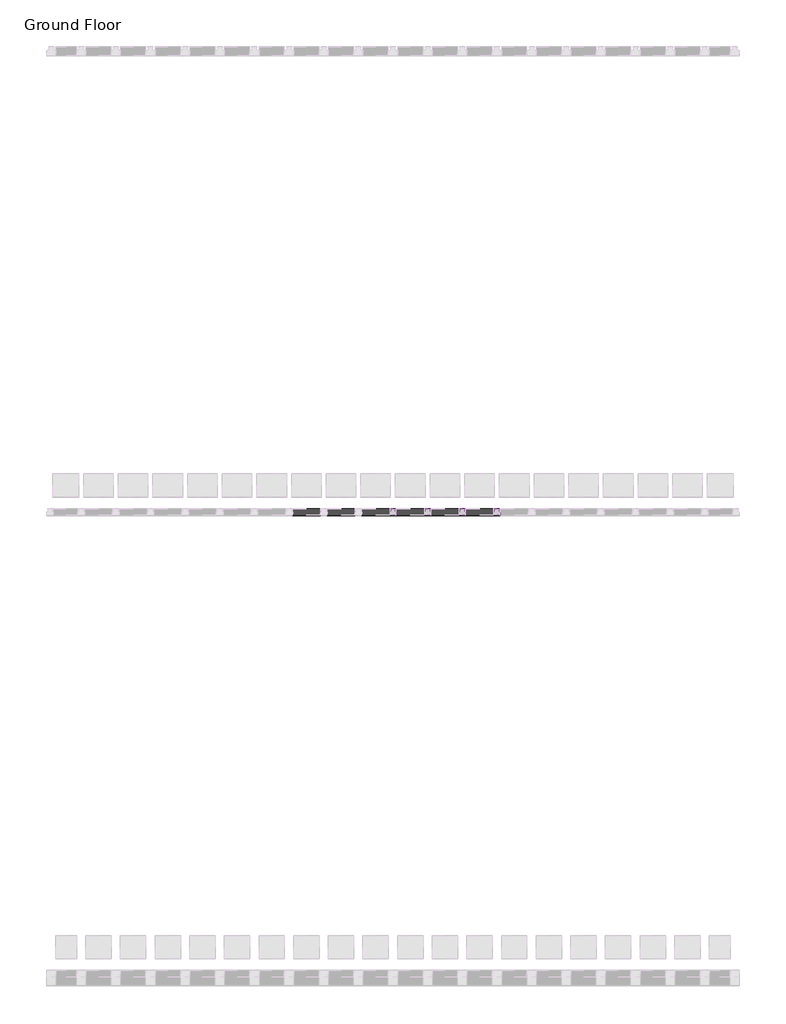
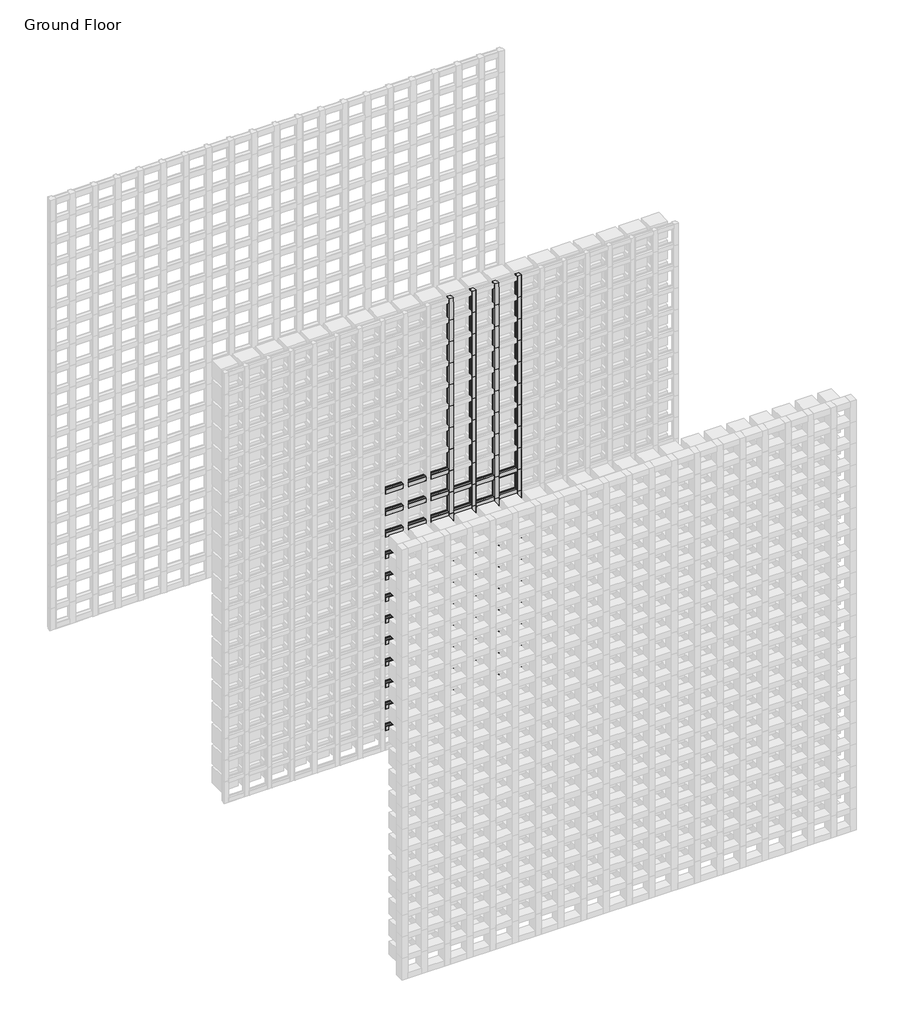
# One storey, part 90 of 350: 145 members.
"""IFC4 building model written with IfcOpenShell, lengths in millimetres."""

from ifc_helpers import new_model, si_unit, origin, place, context, project, spatial, transform, mapped, element, save
from components import rectangular_mullion_f1976eb1, rectangular_mullion_707a50c4

model = new_model("IFC4")

# Units and contexts
model_context = context("Model", 3, world=origin())
ifc_project = project(units=[si_unit("LENGTHUNIT", "METRE", prefix="MILLI")], contexts=[model_context])

# Site, building, storey
site = spatial("IfcSite", under=ifc_project)
building = spatial("IfcBuilding", under=site)
storey = spatial("IfcBuildingStorey", under=building, Name="Ground Floor", Elevation=0.0)

# Members
placement = place(None, origin())
rectangular_mullion_shape = rectangular_mullion_f1976eb1(model_context)
element("IfcMember", 1, ObjectType="Rectangular Mullion : Batten_Timber_Modinex_Austratus_Grid_Fin_30x30_AlaskanYellowCedar", at=placement, inside=storey, context=model_context, shape_type="MappedRepresentation", body=[
    mapped(rectangular_mullion_shape, transform((3416.4361642, 42968.2978302, 150.0), x_axis=(1.0, 0.0, 0.0), y_axis=(0.0, -1.0, 0.0), z_axis=(0.0, 0.0, -1.0))),
])
element("IfcMember", 2, ObjectType="Rectangular Mullion : Batten_Timber_Modinex_Austratus_Grid_Fin_30x30_AlaskanYellowCedar", at=placement, inside=storey, context=model_context, shape_type="MappedRepresentation", body=[
    mapped(rectangular_mullion_shape, transform((3416.4361642, 42968.2978302, 300.0), x_axis=(1.0, 0.0, 0.0), y_axis=(0.0, -1.0, 0.0), z_axis=(0.0, 0.0, -1.0))),
])
element("IfcMember", 3, ObjectType="Rectangular Mullion : Batten_Timber_Modinex_Austratus_Grid_Fin_30x30_AlaskanYellowCedar", at=placement, inside=storey, context=model_context, shape_type="MappedRepresentation", body=[
    mapped(rectangular_mullion_shape, transform((3416.4361642, 42968.2978302, 450.0), x_axis=(1.0, 0.0, 0.0), y_axis=(0.0, -1.0, 0.0), z_axis=(0.0, 0.0, -1.0))),
])
element("IfcMember", 4, ObjectType="Rectangular Mullion : Batten_Timber_Modinex_Austratus_Grid_Fin_30x30_AlaskanYellowCedar", at=placement, inside=storey, context=model_context, shape_type="MappedRepresentation", body=[
    mapped(rectangular_mullion_shape, transform((3416.4361642, 42968.2978302, 600.0), x_axis=(1.0, 0.0, 0.0), y_axis=(0.0, -1.0, 0.0), z_axis=(0.0, 0.0, -1.0))),
])
element("IfcMember", 5, ObjectType="Rectangular Mullion : Batten_Timber_Modinex_Austratus_Grid_Fin_30x30_AlaskanYellowCedar", at=placement, inside=storey, context=model_context, shape_type="MappedRepresentation", body=[
    mapped(rectangular_mullion_shape, transform((3416.4361642, 42968.2978302, 750.0), x_axis=(1.0, 0.0, 0.0), y_axis=(0.0, -1.0, 0.0), z_axis=(0.0, 0.0, -1.0))),
])
element("IfcMember", 6, ObjectType="Rectangular Mullion : Batten_Timber_Modinex_Austratus_Grid_Fin_30x30_AlaskanYellowCedar", at=placement, inside=storey, context=model_context, shape_type="MappedRepresentation", body=[
    mapped(rectangular_mullion_shape, transform((3416.4361642, 42968.2978302, 900.0), x_axis=(1.0, 0.0, 0.0), y_axis=(0.0, -1.0, 0.0), z_axis=(0.0, 0.0, -1.0))),
])
element("IfcMember", 7, ObjectType="Rectangular Mullion : Batten_Timber_Modinex_Austratus_Grid_Fin_30x30_AlaskanYellowCedar", at=placement, inside=storey, context=model_context, shape_type="MappedRepresentation", body=[
    mapped(rectangular_mullion_shape, transform((3416.4361642, 42968.2978302, 1050.0), x_axis=(1.0, 0.0, 0.0), y_axis=(0.0, -1.0, 0.0), z_axis=(0.0, 0.0, -1.0))),
])
element("IfcMember", 8, ObjectType="Rectangular Mullion : Batten_Timber_Modinex_Austratus_Grid_Fin_30x30_AlaskanYellowCedar", at=placement, inside=storey, context=model_context, shape_type="MappedRepresentation", body=[
    mapped(rectangular_mullion_shape, transform((3416.4361642, 42968.2978302, 1200.0), x_axis=(1.0, 0.0, 0.0), y_axis=(0.0, -1.0, 0.0), z_axis=(0.0, 0.0, -1.0))),
])
element("IfcMember", 9, ObjectType="Rectangular Mullion : Batten_Timber_Modinex_Austratus_Grid_Fin_30x30_AlaskanYellowCedar", at=placement, inside=storey, context=model_context, shape_type="MappedRepresentation", body=[
    mapped(rectangular_mullion_shape, transform((3416.4361642, 42968.2978302, 1350.0), x_axis=(1.0, 0.0, 0.0), y_axis=(0.0, -1.0, 0.0), z_axis=(0.0, 0.0, -1.0))),
])
element("IfcMember", 10, ObjectType="Rectangular Mullion : Batten_Timber_Modinex_Austratus_Grid_Fin_30x30_AlaskanYellowCedar", at=placement, inside=storey, context=model_context, shape_type="MappedRepresentation", body=[
    mapped(rectangular_mullion_shape, transform((3416.4361642, 42968.2978302, 1500.0), x_axis=(1.0, 0.0, 0.0), y_axis=(0.0, -1.0, 0.0), z_axis=(0.0, 0.0, -1.0))),
])
element("IfcMember", 11, ObjectType="Rectangular Mullion : Batten_Timber_Modinex_Austratus_Grid_Fin_30x30_AlaskanYellowCedar", at=placement, inside=storey, context=model_context, shape_type="MappedRepresentation", body=[
    mapped(rectangular_mullion_shape, transform((3416.4361642, 42968.2978302, 1650.0), x_axis=(1.0, 0.0, 0.0), y_axis=(0.0, -1.0, 0.0), z_axis=(0.0, 0.0, -1.0))),
])
element("IfcMember", 12, ObjectType="Rectangular Mullion : Batten_Timber_Modinex_Austratus_Grid_Fin_30x30_AlaskanYellowCedar", at=placement, inside=storey, context=model_context, shape_type="MappedRepresentation", body=[
    mapped(rectangular_mullion_shape, transform((3416.4361642, 42968.2978302, 1800.0), x_axis=(1.0, 0.0, 0.0), y_axis=(0.0, -1.0, 0.0), z_axis=(0.0, 0.0, -1.0))),
])
element("IfcMember", 13, ObjectType="Rectangular Mullion : Batten_Timber_Modinex_Austratus_Grid_Fin_30x30_AlaskanYellowCedar", at=placement, inside=storey, context=model_context, shape_type="MappedRepresentation", body=[
    mapped(rectangular_mullion_shape, transform((3416.4361642, 42968.2978302, 1950.0), x_axis=(1.0, 0.0, 0.0), y_axis=(0.0, -1.0, 0.0), z_axis=(0.0, 0.0, -1.0))),
])
element("IfcMember", 14, ObjectType="Rectangular Mullion : Batten_Timber_Modinex_Austratus_Grid_Fin_30x30_AlaskanYellowCedar", at=placement, inside=storey, context=model_context, shape_type="MappedRepresentation", body=[
    mapped(rectangular_mullion_shape, transform((3416.4361642, 42968.2978302, 2100.0), x_axis=(1.0, 0.0, 0.0), y_axis=(0.0, -1.0, 0.0), z_axis=(0.0, 0.0, -1.0))),
])
element("IfcMember", 15, ObjectType="Rectangular Mullion : Batten_Timber_Modinex_Austratus_Grid_Fin_30x30_AlaskanYellowCedar", at=placement, inside=storey, context=model_context, shape_type="MappedRepresentation", body=[
    mapped(rectangular_mullion_shape, transform((3416.4361642, 42968.2978302, 2250.0), x_axis=(1.0, 0.0, 0.0), y_axis=(0.0, -1.0, 0.0), z_axis=(0.0, 0.0, -1.0))),
])
element("IfcMember", 16, ObjectType="Rectangular Mullion : Batten_Timber_Modinex_Austratus_Grid_Fin_30x30_AlaskanYellowCedar", at=placement, inside=storey, context=model_context, shape_type="MappedRepresentation", body=[
    mapped(rectangular_mullion_shape, transform((3416.4361642, 42968.2978302, 2400.0), x_axis=(1.0, 0.0, 0.0), y_axis=(0.0, -1.0, 0.0), z_axis=(0.0, 0.0, -1.0))),
])
element("IfcMember", 17, ObjectType="Rectangular Mullion : Batten_Timber_Modinex_Austratus_Grid_Fin_30x30_AlaskanYellowCedar", at=placement, inside=storey, context=model_context, shape_type="MappedRepresentation", body=[
    mapped(rectangular_mullion_shape, transform((3416.4361642, 42968.2978302, 2550.0), x_axis=(1.0, 0.0, 0.0), y_axis=(0.0, -1.0, 0.0), z_axis=(0.0, 0.0, -1.0))),
])
element("IfcMember", 18, ObjectType="Rectangular Mullion : Batten_Timber_Modinex_Austratus_Grid_Fin_30x30_AlaskanYellowCedar", at=placement, inside=storey, context=model_context, shape_type="MappedRepresentation", body=[
    mapped(rectangular_mullion_shape, transform((3416.4361642, 42968.2978302, 2700.0), x_axis=(1.0, 0.0, 0.0), y_axis=(0.0, -1.0, 0.0), z_axis=(0.0, 0.0, -1.0))),
])
element("IfcMember", 19, ObjectType="Rectangular Mullion : Batten_Timber_Modinex_Austratus_Grid_Fin_30x30_AlaskanYellowCedar", at=placement, inside=storey, context=model_context, shape_type="MappedRepresentation", body=[
    mapped(rectangular_mullion_shape, transform((3566.4361642, 42968.2978302, 150.0), x_axis=(1.0, 0.0, 0.0), y_axis=(0.0, -1.0, 0.0), z_axis=(0.0, 0.0, -1.0))),
])
element("IfcMember", 20, ObjectType="Rectangular Mullion : Batten_Timber_Modinex_Austratus_Grid_Fin_30x30_AlaskanYellowCedar", at=placement, inside=storey, context=model_context, shape_type="MappedRepresentation", body=[
    mapped(rectangular_mullion_shape, transform((3566.4361642, 42968.2978302, 300.0), x_axis=(1.0, 0.0, 0.0), y_axis=(0.0, -1.0, 0.0), z_axis=(0.0, 0.0, -1.0))),
])
element("IfcMember", 21, ObjectType="Rectangular Mullion : Batten_Timber_Modinex_Austratus_Grid_Fin_30x30_AlaskanYellowCedar", at=placement, inside=storey, context=model_context, shape_type="MappedRepresentation", body=[
    mapped(rectangular_mullion_shape, transform((3566.4361642, 42968.2978302, 450.0), x_axis=(1.0, 0.0, 0.0), y_axis=(0.0, -1.0, 0.0), z_axis=(0.0, 0.0, -1.0))),
])
element("IfcMember", 22, ObjectType="Rectangular Mullion : Batten_Timber_Modinex_Austratus_Grid_Fin_30x30_AlaskanYellowCedar", at=placement, inside=storey, context=model_context, shape_type="MappedRepresentation", body=[
    mapped(rectangular_mullion_shape, transform((3566.4361642, 42968.2978302, 600.0), x_axis=(1.0, 0.0, 0.0), y_axis=(0.0, -1.0, 0.0), z_axis=(0.0, 0.0, -1.0))),
])
element("IfcMember", 23, ObjectType="Rectangular Mullion : Batten_Timber_Modinex_Austratus_Grid_Fin_30x30_AlaskanYellowCedar", at=placement, inside=storey, context=model_context, shape_type="MappedRepresentation", body=[
    mapped(rectangular_mullion_shape, transform((3566.4361642, 42968.2978302, 750.0), x_axis=(1.0, 0.0, 0.0), y_axis=(0.0, -1.0, 0.0), z_axis=(0.0, 0.0, -1.0))),
])
element("IfcMember", 24, ObjectType="Rectangular Mullion : Batten_Timber_Modinex_Austratus_Grid_Fin_30x30_AlaskanYellowCedar", at=placement, inside=storey, context=model_context, shape_type="MappedRepresentation", body=[
    mapped(rectangular_mullion_shape, transform((3566.4361642, 42968.2978302, 900.0), x_axis=(1.0, 0.0, 0.0), y_axis=(0.0, -1.0, 0.0), z_axis=(0.0, 0.0, -1.0))),
])
element("IfcMember", 25, ObjectType="Rectangular Mullion : Batten_Timber_Modinex_Austratus_Grid_Fin_30x30_AlaskanYellowCedar", at=placement, inside=storey, context=model_context, shape_type="MappedRepresentation", body=[
    mapped(rectangular_mullion_shape, transform((3566.4361642, 42968.2978302, 1050.0), x_axis=(1.0, 0.0, 0.0), y_axis=(0.0, -1.0, 0.0), z_axis=(0.0, 0.0, -1.0))),
])
element("IfcMember", 26, ObjectType="Rectangular Mullion : Batten_Timber_Modinex_Austratus_Grid_Fin_30x30_AlaskanYellowCedar", at=placement, inside=storey, context=model_context, shape_type="MappedRepresentation", body=[
    mapped(rectangular_mullion_shape, transform((3566.4361642, 42968.2978302, 1200.0), x_axis=(1.0, 0.0, 0.0), y_axis=(0.0, -1.0, 0.0), z_axis=(0.0, 0.0, -1.0))),
])
element("IfcMember", 27, ObjectType="Rectangular Mullion : Batten_Timber_Modinex_Austratus_Grid_Fin_30x30_AlaskanYellowCedar", at=placement, inside=storey, context=model_context, shape_type="MappedRepresentation", body=[
    mapped(rectangular_mullion_shape, transform((3566.4361642, 42968.2978302, 1350.0), x_axis=(1.0, 0.0, 0.0), y_axis=(0.0, -1.0, 0.0), z_axis=(0.0, 0.0, -1.0))),
])
element("IfcMember", 28, ObjectType="Rectangular Mullion : Batten_Timber_Modinex_Austratus_Grid_Fin_30x30_AlaskanYellowCedar", at=placement, inside=storey, context=model_context, shape_type="MappedRepresentation", body=[
    mapped(rectangular_mullion_shape, transform((3566.4361642, 42968.2978302, 1500.0), x_axis=(1.0, 0.0, 0.0), y_axis=(0.0, -1.0, 0.0), z_axis=(0.0, 0.0, -1.0))),
])
element("IfcMember", 29, ObjectType="Rectangular Mullion : Batten_Timber_Modinex_Austratus_Grid_Fin_30x30_AlaskanYellowCedar", at=placement, inside=storey, context=model_context, shape_type="MappedRepresentation", body=[
    mapped(rectangular_mullion_shape, transform((3566.4361642, 42968.2978302, 1650.0), x_axis=(1.0, 0.0, 0.0), y_axis=(0.0, -1.0, 0.0), z_axis=(0.0, 0.0, -1.0))),
])
element("IfcMember", 30, ObjectType="Rectangular Mullion : Batten_Timber_Modinex_Austratus_Grid_Fin_30x30_AlaskanYellowCedar", at=placement, inside=storey, context=model_context, shape_type="MappedRepresentation", body=[
    mapped(rectangular_mullion_shape, transform((3566.4361642, 42968.2978302, 1800.0), x_axis=(1.0, 0.0, 0.0), y_axis=(0.0, -1.0, 0.0), z_axis=(0.0, 0.0, -1.0))),
])
element("IfcMember", 31, ObjectType="Rectangular Mullion : Batten_Timber_Modinex_Austratus_Grid_Fin_30x30_AlaskanYellowCedar", at=placement, inside=storey, context=model_context, shape_type="MappedRepresentation", body=[
    mapped(rectangular_mullion_shape, transform((3566.4361642, 42968.2978302, 1950.0), x_axis=(1.0, 0.0, 0.0), y_axis=(0.0, -1.0, 0.0), z_axis=(0.0, 0.0, -1.0))),
])
element("IfcMember", 32, ObjectType="Rectangular Mullion : Batten_Timber_Modinex_Austratus_Grid_Fin_30x30_AlaskanYellowCedar", at=placement, inside=storey, context=model_context, shape_type="MappedRepresentation", body=[
    mapped(rectangular_mullion_shape, transform((3566.4361642, 42968.2978302, 2100.0), x_axis=(1.0, 0.0, 0.0), y_axis=(0.0, -1.0, 0.0), z_axis=(0.0, 0.0, -1.0))),
])
element("IfcMember", 33, ObjectType="Rectangular Mullion : Batten_Timber_Modinex_Austratus_Grid_Fin_30x30_AlaskanYellowCedar", at=placement, inside=storey, context=model_context, shape_type="MappedRepresentation", body=[
    mapped(rectangular_mullion_shape, transform((3566.4361642, 42968.2978302, 2250.0), x_axis=(1.0, 0.0, 0.0), y_axis=(0.0, -1.0, 0.0), z_axis=(0.0, 0.0, -1.0))),
])
element("IfcMember", 34, ObjectType="Rectangular Mullion : Batten_Timber_Modinex_Austratus_Grid_Fin_30x30_AlaskanYellowCedar", at=placement, inside=storey, context=model_context, shape_type="MappedRepresentation", body=[
    mapped(rectangular_mullion_shape, transform((3566.4361642, 42968.2978302, 2400.0), x_axis=(1.0, 0.0, 0.0), y_axis=(0.0, -1.0, 0.0), z_axis=(0.0, 0.0, -1.0))),
])
element("IfcMember", 35, ObjectType="Rectangular Mullion : Batten_Timber_Modinex_Austratus_Grid_Fin_30x30_AlaskanYellowCedar", at=placement, inside=storey, context=model_context, shape_type="MappedRepresentation", body=[
    mapped(rectangular_mullion_shape, transform((3566.4361642, 42968.2978302, 2550.0), x_axis=(1.0, 0.0, 0.0), y_axis=(0.0, -1.0, 0.0), z_axis=(0.0, 0.0, -1.0))),
])
element("IfcMember", 36, ObjectType="Rectangular Mullion : Batten_Timber_Modinex_Austratus_Grid_Fin_30x30_AlaskanYellowCedar", at=placement, inside=storey, context=model_context, shape_type="MappedRepresentation", body=[
    mapped(rectangular_mullion_shape, transform((3566.4361642, 42968.2978302, 2700.0), x_axis=(1.0, 0.0, 0.0), y_axis=(0.0, -1.0, 0.0), z_axis=(0.0, 0.0, -1.0))),
])
element("IfcMember", 37, ObjectType="Rectangular Mullion : Batten_Timber_Modinex_Austratus_Grid_Fin_30x30_AlaskanYellowCedar", at=placement, inside=storey, context=model_context, shape_type="MappedRepresentation", body=[
    mapped(rectangular_mullion_shape, transform((3716.4361642, 42968.2978302, 150.0), x_axis=(1.0, 0.0, 0.0), y_axis=(0.0, -1.0, 0.0), z_axis=(0.0, 0.0, -1.0))),
])
element("IfcMember", 38, ObjectType="Rectangular Mullion : Batten_Timber_Modinex_Austratus_Grid_Fin_30x30_AlaskanYellowCedar", at=placement, inside=storey, context=model_context, shape_type="MappedRepresentation", body=[
    mapped(rectangular_mullion_shape, transform((3716.4361642, 42968.2978302, 300.0), x_axis=(1.0, 0.0, 0.0), y_axis=(0.0, -1.0, 0.0), z_axis=(0.0, 0.0, -1.0))),
])
element("IfcMember", 39, ObjectType="Rectangular Mullion : Batten_Timber_Modinex_Austratus_Grid_Fin_30x30_AlaskanYellowCedar", at=placement, inside=storey, context=model_context, shape_type="MappedRepresentation", body=[
    mapped(rectangular_mullion_shape, transform((3716.4361642, 42968.2978302, 450.0), x_axis=(1.0, 0.0, 0.0), y_axis=(0.0, -1.0, 0.0), z_axis=(0.0, 0.0, -1.0))),
])
element("IfcMember", 40, ObjectType="Rectangular Mullion : Batten_Timber_Modinex_Austratus_Grid_Fin_30x30_AlaskanYellowCedar", at=placement, inside=storey, context=model_context, shape_type="MappedRepresentation", body=[
    mapped(rectangular_mullion_shape, transform((3716.4361642, 42968.2978302, 600.0), x_axis=(1.0, 0.0, 0.0), y_axis=(0.0, -1.0, 0.0), z_axis=(0.0, 0.0, -1.0))),
])
element("IfcMember", 41, ObjectType="Rectangular Mullion : Batten_Timber_Modinex_Austratus_Grid_Fin_30x30_AlaskanYellowCedar", at=placement, inside=storey, context=model_context, shape_type="MappedRepresentation", body=[
    mapped(rectangular_mullion_shape, transform((3716.4361642, 42968.2978302, 750.0), x_axis=(1.0, 0.0, 0.0), y_axis=(0.0, -1.0, 0.0), z_axis=(0.0, 0.0, -1.0))),
])
element("IfcMember", 42, ObjectType="Rectangular Mullion : Batten_Timber_Modinex_Austratus_Grid_Fin_30x30_AlaskanYellowCedar", at=placement, inside=storey, context=model_context, shape_type="MappedRepresentation", body=[
    mapped(rectangular_mullion_shape, transform((3716.4361642, 42968.2978302, 900.0), x_axis=(1.0, 0.0, 0.0), y_axis=(0.0, -1.0, 0.0), z_axis=(0.0, 0.0, -1.0))),
])
element("IfcMember", 43, ObjectType="Rectangular Mullion : Batten_Timber_Modinex_Austratus_Grid_Fin_30x30_AlaskanYellowCedar", at=placement, inside=storey, context=model_context, shape_type="MappedRepresentation", body=[
    mapped(rectangular_mullion_shape, transform((3716.4361642, 42968.2978302, 1050.0), x_axis=(1.0, 0.0, 0.0), y_axis=(0.0, -1.0, 0.0), z_axis=(0.0, 0.0, -1.0))),
])
element("IfcMember", 44, ObjectType="Rectangular Mullion : Batten_Timber_Modinex_Austratus_Grid_Fin_30x30_AlaskanYellowCedar", at=placement, inside=storey, context=model_context, shape_type="MappedRepresentation", body=[
    mapped(rectangular_mullion_shape, transform((3716.4361642, 42968.2978302, 1200.0), x_axis=(1.0, 0.0, 0.0), y_axis=(0.0, -1.0, 0.0), z_axis=(0.0, 0.0, -1.0))),
])
element("IfcMember", 45, ObjectType="Rectangular Mullion : Batten_Timber_Modinex_Austratus_Grid_Fin_30x30_AlaskanYellowCedar", at=placement, inside=storey, context=model_context, shape_type="MappedRepresentation", body=[
    mapped(rectangular_mullion_shape, transform((3716.4361642, 42968.2978302, 1350.0), x_axis=(1.0, 0.0, 0.0), y_axis=(0.0, -1.0, 0.0), z_axis=(0.0, 0.0, -1.0))),
])
element("IfcMember", 46, ObjectType="Rectangular Mullion : Batten_Timber_Modinex_Austratus_Grid_Fin_30x30_AlaskanYellowCedar", at=placement, inside=storey, context=model_context, shape_type="MappedRepresentation", body=[
    mapped(rectangular_mullion_shape, transform((3716.4361642, 42968.2978302, 1500.0), x_axis=(1.0, 0.0, 0.0), y_axis=(0.0, -1.0, 0.0), z_axis=(0.0, 0.0, -1.0))),
])
element("IfcMember", 47, ObjectType="Rectangular Mullion : Batten_Timber_Modinex_Austratus_Grid_Fin_30x30_AlaskanYellowCedar", at=placement, inside=storey, context=model_context, shape_type="MappedRepresentation", body=[
    mapped(rectangular_mullion_shape, transform((3716.4361642, 42968.2978302, 1650.0), x_axis=(1.0, 0.0, 0.0), y_axis=(0.0, -1.0, 0.0), z_axis=(0.0, 0.0, -1.0))),
])
element("IfcMember", 48, ObjectType="Rectangular Mullion : Batten_Timber_Modinex_Austratus_Grid_Fin_30x30_AlaskanYellowCedar", at=placement, inside=storey, context=model_context, shape_type="MappedRepresentation", body=[
    mapped(rectangular_mullion_shape, transform((3716.4361642, 42968.2978302, 1800.0), x_axis=(1.0, 0.0, 0.0), y_axis=(0.0, -1.0, 0.0), z_axis=(0.0, 0.0, -1.0))),
])
element("IfcMember", 49, ObjectType="Rectangular Mullion : Batten_Timber_Modinex_Austratus_Grid_Fin_30x30_AlaskanYellowCedar", at=placement, inside=storey, context=model_context, shape_type="MappedRepresentation", body=[
    mapped(rectangular_mullion_shape, transform((3716.4361642, 42968.2978302, 1950.0), x_axis=(1.0, 0.0, 0.0), y_axis=(0.0, -1.0, 0.0), z_axis=(0.0, 0.0, -1.0))),
])
element("IfcMember", 50, ObjectType="Rectangular Mullion : Batten_Timber_Modinex_Austratus_Grid_Fin_30x30_AlaskanYellowCedar", at=placement, inside=storey, context=model_context, shape_type="MappedRepresentation", body=[
    mapped(rectangular_mullion_shape, transform((3716.4361642, 42968.2978302, 2100.0), x_axis=(1.0, 0.0, 0.0), y_axis=(0.0, -1.0, 0.0), z_axis=(0.0, 0.0, -1.0))),
])
element("IfcMember", 51, ObjectType="Rectangular Mullion : Batten_Timber_Modinex_Austratus_Grid_Fin_30x30_AlaskanYellowCedar", at=placement, inside=storey, context=model_context, shape_type="MappedRepresentation", body=[
    mapped(rectangular_mullion_shape, transform((3716.4361642, 42968.2978302, 2250.0), x_axis=(1.0, 0.0, 0.0), y_axis=(0.0, -1.0, 0.0), z_axis=(0.0, 0.0, -1.0))),
])
element("IfcMember", 52, ObjectType="Rectangular Mullion : Batten_Timber_Modinex_Austratus_Grid_Fin_30x30_AlaskanYellowCedar", at=placement, inside=storey, context=model_context, shape_type="MappedRepresentation", body=[
    mapped(rectangular_mullion_shape, transform((3716.4361642, 42968.2978302, 2400.0), x_axis=(1.0, 0.0, 0.0), y_axis=(0.0, -1.0, 0.0), z_axis=(0.0, 0.0, -1.0))),
])
element("IfcMember", 53, ObjectType="Rectangular Mullion : Batten_Timber_Modinex_Austratus_Grid_Fin_30x30_AlaskanYellowCedar", at=placement, inside=storey, context=model_context, shape_type="MappedRepresentation", body=[
    mapped(rectangular_mullion_shape, transform((3716.4361642, 42968.2978302, 2550.0), x_axis=(1.0, 0.0, 0.0), y_axis=(0.0, -1.0, 0.0), z_axis=(0.0, 0.0, -1.0))),
])
element("IfcMember", 54, ObjectType="Rectangular Mullion : Batten_Timber_Modinex_Austratus_Grid_Fin_30x30_AlaskanYellowCedar", at=placement, inside=storey, context=model_context, shape_type="MappedRepresentation", body=[
    mapped(rectangular_mullion_shape, transform((3716.4361642, 42968.2978302, 2700.0), x_axis=(1.0, 0.0, 0.0), y_axis=(0.0, -1.0, 0.0), z_axis=(0.0, 0.0, -1.0))),
])
element("IfcMember", 55, ObjectType="Rectangular Mullion : Batten_Timber_Modinex_Austratus_Grid_Fin_30x30_AlaskanYellowCedar", at=placement, inside=storey, context=model_context, shape_type="MappedRepresentation", body=[
    mapped(rectangular_mullion_shape, transform((3866.4361642, 42968.2978302, 150.0), x_axis=(1.0, 0.0, 0.0), y_axis=(0.0, -1.0, 0.0), z_axis=(0.0, 0.0, -1.0))),
])
element("IfcMember", 56, ObjectType="Rectangular Mullion : Batten_Timber_Modinex_Austratus_Grid_Fin_30x30_AlaskanYellowCedar", at=placement, inside=storey, context=model_context, shape_type="MappedRepresentation", body=[
    mapped(rectangular_mullion_shape, transform((3866.4361642, 42968.2978302, 300.0), x_axis=(1.0, 0.0, 0.0), y_axis=(0.0, -1.0, 0.0), z_axis=(0.0, 0.0, -1.0))),
])
element("IfcMember", 57, ObjectType="Rectangular Mullion : Batten_Timber_Modinex_Austratus_Grid_Fin_30x30_AlaskanYellowCedar", at=placement, inside=storey, context=model_context, shape_type="MappedRepresentation", body=[
    mapped(rectangular_mullion_shape, transform((3866.4361642, 42968.2978302, 450.0), x_axis=(1.0, 0.0, 0.0), y_axis=(0.0, -1.0, 0.0), z_axis=(0.0, 0.0, -1.0))),
])
element("IfcMember", 58, ObjectType="Rectangular Mullion : Batten_Timber_Modinex_Austratus_Grid_Fin_30x30_AlaskanYellowCedar", at=placement, inside=storey, context=model_context, shape_type="MappedRepresentation", body=[
    mapped(rectangular_mullion_shape, transform((3866.4361642, 42968.2978302, 600.0), x_axis=(1.0, 0.0, 0.0), y_axis=(0.0, -1.0, 0.0), z_axis=(0.0, 0.0, -1.0))),
])
element("IfcMember", 59, ObjectType="Rectangular Mullion : Batten_Timber_Modinex_Austratus_Grid_Fin_30x30_AlaskanYellowCedar", at=placement, inside=storey, context=model_context, shape_type="MappedRepresentation", body=[
    mapped(rectangular_mullion_shape, transform((3866.4361642, 42968.2978302, 750.0), x_axis=(1.0, 0.0, 0.0), y_axis=(0.0, -1.0, 0.0), z_axis=(0.0, 0.0, -1.0))),
])
element("IfcMember", 60, ObjectType="Rectangular Mullion : Batten_Timber_Modinex_Austratus_Grid_Fin_30x30_AlaskanYellowCedar", at=placement, inside=storey, context=model_context, shape_type="MappedRepresentation", body=[
    mapped(rectangular_mullion_shape, transform((3866.4361642, 42968.2978302, 900.0), x_axis=(1.0, 0.0, 0.0), y_axis=(0.0, -1.0, 0.0), z_axis=(0.0, 0.0, -1.0))),
])
element("IfcMember", 61, ObjectType="Rectangular Mullion : Batten_Timber_Modinex_Austratus_Grid_Fin_30x30_AlaskanYellowCedar", at=placement, inside=storey, context=model_context, shape_type="MappedRepresentation", body=[
    mapped(rectangular_mullion_shape, transform((3866.4361642, 42968.2978302, 1050.0), x_axis=(1.0, 0.0, 0.0), y_axis=(0.0, -1.0, 0.0), z_axis=(0.0, 0.0, -1.0))),
])
element("IfcMember", 62, ObjectType="Rectangular Mullion : Batten_Timber_Modinex_Austratus_Grid_Fin_30x30_AlaskanYellowCedar", at=placement, inside=storey, context=model_context, shape_type="MappedRepresentation", body=[
    mapped(rectangular_mullion_shape, transform((3866.4361642, 42968.2978302, 1200.0), x_axis=(1.0, 0.0, 0.0), y_axis=(0.0, -1.0, 0.0), z_axis=(0.0, 0.0, -1.0))),
])
element("IfcMember", 63, ObjectType="Rectangular Mullion : Batten_Timber_Modinex_Austratus_Grid_Fin_30x30_AlaskanYellowCedar", at=placement, inside=storey, context=model_context, shape_type="MappedRepresentation", body=[
    mapped(rectangular_mullion_shape, transform((3866.4361642, 42968.2978302, 1350.0), x_axis=(1.0, 0.0, 0.0), y_axis=(0.0, -1.0, 0.0), z_axis=(0.0, 0.0, -1.0))),
])
element("IfcMember", 64, ObjectType="Rectangular Mullion : Batten_Timber_Modinex_Austratus_Grid_Fin_30x30_AlaskanYellowCedar", at=placement, inside=storey, context=model_context, shape_type="MappedRepresentation", body=[
    mapped(rectangular_mullion_shape, transform((3866.4361642, 42968.2978302, 1500.0), x_axis=(1.0, 0.0, 0.0), y_axis=(0.0, -1.0, 0.0), z_axis=(0.0, 0.0, -1.0))),
])
element("IfcMember", 65, ObjectType="Rectangular Mullion : Batten_Timber_Modinex_Austratus_Grid_Fin_30x30_AlaskanYellowCedar", at=placement, inside=storey, context=model_context, shape_type="MappedRepresentation", body=[
    mapped(rectangular_mullion_shape, transform((3866.4361642, 42968.2978302, 1650.0), x_axis=(1.0, 0.0, 0.0), y_axis=(0.0, -1.0, 0.0), z_axis=(0.0, 0.0, -1.0))),
])
element("IfcMember", 66, ObjectType="Rectangular Mullion : Batten_Timber_Modinex_Austratus_Grid_Fin_30x30_AlaskanYellowCedar", at=placement, inside=storey, context=model_context, shape_type="MappedRepresentation", body=[
    mapped(rectangular_mullion_shape, transform((3866.4361642, 42968.2978302, 1800.0), x_axis=(1.0, 0.0, 0.0), y_axis=(0.0, -1.0, 0.0), z_axis=(0.0, 0.0, -1.0))),
])
element("IfcMember", 67, ObjectType="Rectangular Mullion : Batten_Timber_Modinex_Austratus_Grid_Fin_30x30_AlaskanYellowCedar", at=placement, inside=storey, context=model_context, shape_type="MappedRepresentation", body=[
    mapped(rectangular_mullion_shape, transform((3866.4361642, 42968.2978302, 1950.0), x_axis=(1.0, 0.0, 0.0), y_axis=(0.0, -1.0, 0.0), z_axis=(0.0, 0.0, -1.0))),
])
element("IfcMember", 68, ObjectType="Rectangular Mullion : Batten_Timber_Modinex_Austratus_Grid_Fin_30x30_AlaskanYellowCedar", at=placement, inside=storey, context=model_context, shape_type="MappedRepresentation", body=[
    mapped(rectangular_mullion_shape, transform((3866.4361642, 42968.2978302, 2100.0), x_axis=(1.0, 0.0, 0.0), y_axis=(0.0, -1.0, 0.0), z_axis=(0.0, 0.0, -1.0))),
])
element("IfcMember", 69, ObjectType="Rectangular Mullion : Batten_Timber_Modinex_Austratus_Grid_Fin_30x30_AlaskanYellowCedar", at=placement, inside=storey, context=model_context, shape_type="MappedRepresentation", body=[
    mapped(rectangular_mullion_shape, transform((3866.4361642, 42968.2978302, 2250.0), x_axis=(1.0, 0.0, 0.0), y_axis=(0.0, -1.0, 0.0), z_axis=(0.0, 0.0, -1.0))),
])
element("IfcMember", 70, ObjectType="Rectangular Mullion : Batten_Timber_Modinex_Austratus_Grid_Fin_30x30_AlaskanYellowCedar", at=placement, inside=storey, context=model_context, shape_type="MappedRepresentation", body=[
    mapped(rectangular_mullion_shape, transform((3866.4361642, 42968.2978302, 2400.0), x_axis=(1.0, 0.0, 0.0), y_axis=(0.0, -1.0, 0.0), z_axis=(0.0, 0.0, -1.0))),
])
element("IfcMember", 71, ObjectType="Rectangular Mullion : Batten_Timber_Modinex_Austratus_Grid_Fin_30x30_AlaskanYellowCedar", at=placement, inside=storey, context=model_context, shape_type="MappedRepresentation", body=[
    mapped(rectangular_mullion_shape, transform((3866.4361642, 42968.2978302, 2550.0), x_axis=(1.0, 0.0, 0.0), y_axis=(0.0, -1.0, 0.0), z_axis=(0.0, 0.0, -1.0))),
])
element("IfcMember", 72, ObjectType="Rectangular Mullion : Batten_Timber_Modinex_Austratus_Grid_Fin_30x30_AlaskanYellowCedar", at=placement, inside=storey, context=model_context, shape_type="MappedRepresentation", body=[
    mapped(rectangular_mullion_shape, transform((3866.4361642, 42968.2978302, 2700.0), x_axis=(1.0, 0.0, 0.0), y_axis=(0.0, -1.0, 0.0), z_axis=(0.0, 0.0, -1.0))),
])
element("IfcMember", 73, ObjectType="Rectangular Mullion : Batten_Timber_Modinex_Austratus_Grid_Fin_30x30_AlaskanYellowCedar", at=placement, inside=storey, context=model_context, shape_type="MappedRepresentation", body=[
    mapped(rectangular_mullion_shape, transform((3416.4361642, 42968.2978302, 2850.0), x_axis=(1.0, 0.0, 0.0), y_axis=(0.0, -1.0, 0.0), z_axis=(0.0, 0.0, -1.0))),
])
element("IfcMember", 74, ObjectType="Rectangular Mullion : Batten_Timber_Modinex_Austratus_Grid_Fin_30x30_AlaskanYellowCedar", at=placement, inside=storey, context=model_context, shape_type="MappedRepresentation", body=[
    mapped(rectangular_mullion_shape, transform((3566.4361642, 42968.2978302, 2850.0), x_axis=(1.0, 0.0, 0.0), y_axis=(0.0, -1.0, 0.0), z_axis=(0.0, 0.0, -1.0))),
])
element("IfcMember", 75, ObjectType="Rectangular Mullion : Batten_Timber_Modinex_Austratus_Grid_Fin_30x30_AlaskanYellowCedar", at=placement, inside=storey, context=model_context, shape_type="MappedRepresentation", body=[
    mapped(rectangular_mullion_shape, transform((3716.4361642, 42968.2978302, 2850.0), x_axis=(1.0, 0.0, 0.0), y_axis=(0.0, -1.0, 0.0), z_axis=(0.0, 0.0, -1.0))),
])
element("IfcMember", 76, ObjectType="Rectangular Mullion : Batten_Timber_Modinex_Austratus_Grid_Fin_30x30_AlaskanYellowCedar", at=placement, inside=storey, context=model_context, shape_type="MappedRepresentation", body=[
    mapped(rectangular_mullion_shape, transform((3866.4361642, 42968.2978302, 2850.0), x_axis=(1.0, 0.0, 0.0), y_axis=(0.0, -1.0, 0.0), z_axis=(0.0, 0.0, -1.0))),
])
rectangular_mullion_2_shape = rectangular_mullion_707a50c4(model_context)
element("IfcMember", 77, ObjectType="Rectangular Mullion : Batten_Timber_Modinex_Austratus_Grid_Fin_30x30_AlaskanYellowCedar", at=placement, inside=storey, context=model_context, shape_type="MappedRepresentation", body=[
    mapped(rectangular_mullion_2_shape, transform((3101.4361642, 42968.2978302, 150.0), x_axis=(0.0, 0.0, 1.0), y_axis=(0.0, -1.0, 0.0), z_axis=(1.0, 0.0, 0.0))),
])
element("IfcMember", 78, ObjectType="Rectangular Mullion : Batten_Timber_Modinex_Austratus_Grid_Fin_30x30_AlaskanYellowCedar", at=placement, inside=storey, context=model_context, shape_type="MappedRepresentation", body=[
    mapped(rectangular_mullion_2_shape, transform((3251.4361642, 42968.2978302, 150.0), x_axis=(0.0, 0.0, 1.0), y_axis=(0.0, -1.0, 0.0), z_axis=(1.0, 0.0, 0.0))),
])
element("IfcMember", 79, ObjectType="Rectangular Mullion : Batten_Timber_Modinex_Austratus_Grid_Fin_30x30_AlaskanYellowCedar", at=placement, inside=storey, context=model_context, shape_type="MappedRepresentation", body=[
    mapped(rectangular_mullion_2_shape, transform((3401.4361642, 42968.2978302, 150.0), x_axis=(0.0, 0.0, 1.0), y_axis=(0.0, -1.0, 0.0), z_axis=(1.0, 0.0, 0.0))),
])
element("IfcMember", 80, ObjectType="Rectangular Mullion : Batten_Timber_Modinex_Austratus_Grid_Fin_30x30_AlaskanYellowCedar", at=placement, inside=storey, context=model_context, shape_type="MappedRepresentation", body=[
    mapped(rectangular_mullion_2_shape, transform((3551.4361642, 42968.2978302, 150.0), x_axis=(0.0, 0.0, 1.0), y_axis=(0.0, -1.0, 0.0), z_axis=(1.0, 0.0, 0.0))),
])
element("IfcMember", 81, ObjectType="Rectangular Mullion : Batten_Timber_Modinex_Austratus_Grid_Fin_30x30_AlaskanYellowCedar", at=placement, inside=storey, context=model_context, shape_type="MappedRepresentation", body=[
    mapped(rectangular_mullion_2_shape, transform((3701.4361642, 42968.2978302, 150.0), x_axis=(0.0, 0.0, 1.0), y_axis=(0.0, -1.0, 0.0), z_axis=(1.0, 0.0, 0.0))),
])
element("IfcMember", 82, ObjectType="Rectangular Mullion : Batten_Timber_Modinex_Austratus_Grid_Fin_30x30_AlaskanYellowCedar", at=placement, inside=storey, context=model_context, shape_type="MappedRepresentation", body=[
    mapped(rectangular_mullion_2_shape, transform((3851.4361642, 42968.2978302, 150.0), x_axis=(0.0, 0.0, 1.0), y_axis=(0.0, -1.0, 0.0), z_axis=(1.0, 0.0, 0.0))),
])
element("IfcMember", 83, ObjectType="Rectangular Mullion : Batten_Timber_Modinex_Austratus_Grid_Fin_30x30_AlaskanYellowCedar", at=placement, inside=storey, context=model_context, shape_type="MappedRepresentation", body=[
    mapped(rectangular_mullion_2_shape, transform((3101.4361642, 42968.2978302, 300.0), x_axis=(0.0, 0.0, 1.0), y_axis=(0.0, -1.0, 0.0), z_axis=(1.0, 0.0, 0.0))),
])
element("IfcMember", 84, ObjectType="Rectangular Mullion : Batten_Timber_Modinex_Austratus_Grid_Fin_30x30_AlaskanYellowCedar", at=placement, inside=storey, context=model_context, shape_type="MappedRepresentation", body=[
    mapped(rectangular_mullion_2_shape, transform((3251.4361642, 42968.2978302, 300.0), x_axis=(0.0, 0.0, 1.0), y_axis=(0.0, -1.0, 0.0), z_axis=(1.0, 0.0, 0.0))),
])
element("IfcMember", 85, ObjectType="Rectangular Mullion : Batten_Timber_Modinex_Austratus_Grid_Fin_30x30_AlaskanYellowCedar", at=placement, inside=storey, context=model_context, shape_type="MappedRepresentation", body=[
    mapped(rectangular_mullion_2_shape, transform((3401.4361642, 42968.2978302, 300.0), x_axis=(0.0, 0.0, 1.0), y_axis=(0.0, -1.0, 0.0), z_axis=(1.0, 0.0, 0.0))),
])
element("IfcMember", 86, ObjectType="Rectangular Mullion : Batten_Timber_Modinex_Austratus_Grid_Fin_30x30_AlaskanYellowCedar", at=placement, inside=storey, context=model_context, shape_type="MappedRepresentation", body=[
    mapped(rectangular_mullion_2_shape, transform((3551.4361642, 42968.2978302, 300.0), x_axis=(0.0, 0.0, 1.0), y_axis=(0.0, -1.0, 0.0), z_axis=(1.0, 0.0, 0.0))),
])
element("IfcMember", 87, ObjectType="Rectangular Mullion : Batten_Timber_Modinex_Austratus_Grid_Fin_30x30_AlaskanYellowCedar", at=placement, inside=storey, context=model_context, shape_type="MappedRepresentation", body=[
    mapped(rectangular_mullion_2_shape, transform((3701.4361642, 42968.2978302, 300.0), x_axis=(0.0, 0.0, 1.0), y_axis=(0.0, -1.0, 0.0), z_axis=(1.0, 0.0, 0.0))),
])
element("IfcMember", 88, ObjectType="Rectangular Mullion : Batten_Timber_Modinex_Austratus_Grid_Fin_30x30_AlaskanYellowCedar", at=placement, inside=storey, context=model_context, shape_type="MappedRepresentation", body=[
    mapped(rectangular_mullion_2_shape, transform((3851.4361642, 42968.2978302, 300.0), x_axis=(0.0, 0.0, 1.0), y_axis=(0.0, -1.0, 0.0), z_axis=(1.0, 0.0, 0.0))),
])
element("IfcMember", 89, ObjectType="Rectangular Mullion : Batten_Timber_Modinex_Austratus_Grid_Fin_30x30_AlaskanYellowCedar", at=placement, inside=storey, context=model_context, shape_type="MappedRepresentation", body=[
    mapped(rectangular_mullion_2_shape, transform((3101.4361642, 42968.2978302, 450.0), x_axis=(0.0, 0.0, 1.0), y_axis=(0.0, -1.0, 0.0), z_axis=(1.0, 0.0, 0.0))),
])
element("IfcMember", 90, ObjectType="Rectangular Mullion : Batten_Timber_Modinex_Austratus_Grid_Fin_30x30_AlaskanYellowCedar", at=placement, inside=storey, context=model_context, shape_type="MappedRepresentation", body=[
    mapped(rectangular_mullion_2_shape, transform((3251.4361642, 42968.2978302, 450.0), x_axis=(0.0, 0.0, 1.0), y_axis=(0.0, -1.0, 0.0), z_axis=(1.0, 0.0, 0.0))),
])
element("IfcMember", 91, ObjectType="Rectangular Mullion : Batten_Timber_Modinex_Austratus_Grid_Fin_30x30_AlaskanYellowCedar", at=placement, inside=storey, context=model_context, shape_type="MappedRepresentation", body=[
    mapped(rectangular_mullion_2_shape, transform((3401.4361642, 42968.2978302, 450.0), x_axis=(0.0, 0.0, 1.0), y_axis=(0.0, -1.0, 0.0), z_axis=(1.0, 0.0, 0.0))),
])
element("IfcMember", 92, ObjectType="Rectangular Mullion : Batten_Timber_Modinex_Austratus_Grid_Fin_30x30_AlaskanYellowCedar", at=placement, inside=storey, context=model_context, shape_type="MappedRepresentation", body=[
    mapped(rectangular_mullion_2_shape, transform((3551.4361642, 42968.2978302, 450.0), x_axis=(0.0, 0.0, 1.0), y_axis=(0.0, -1.0, 0.0), z_axis=(1.0, 0.0, 0.0))),
])
element("IfcMember", 93, ObjectType="Rectangular Mullion : Batten_Timber_Modinex_Austratus_Grid_Fin_30x30_AlaskanYellowCedar", at=placement, inside=storey, context=model_context, shape_type="MappedRepresentation", body=[
    mapped(rectangular_mullion_2_shape, transform((3701.4361642, 42968.2978302, 450.0), x_axis=(0.0, 0.0, 1.0), y_axis=(0.0, -1.0, 0.0), z_axis=(1.0, 0.0, 0.0))),
])
element("IfcMember", 94, ObjectType="Rectangular Mullion : Batten_Timber_Modinex_Austratus_Grid_Fin_30x30_AlaskanYellowCedar", at=placement, inside=storey, context=model_context, shape_type="MappedRepresentation", body=[
    mapped(rectangular_mullion_2_shape, transform((3851.4361642, 42968.2978302, 450.0), x_axis=(0.0, 0.0, 1.0), y_axis=(0.0, -1.0, 0.0), z_axis=(1.0, 0.0, 0.0))),
])
element("IfcMember", 95, ObjectType="Rectangular Mullion : Batten_Timber_Modinex_Austratus_Grid_Fin_30x30_AlaskanYellowCedar", at=placement, inside=storey, context=model_context, shape_type="MappedRepresentation", body=[
    mapped(rectangular_mullion_2_shape, transform((3101.4361642, 42968.2978302, 600.0), x_axis=(0.0, 0.0, 1.0), y_axis=(0.0, -1.0, 0.0), z_axis=(1.0, 0.0, 0.0))),
])
element("IfcMember", 96, ObjectType="Rectangular Mullion : Batten_Timber_Modinex_Austratus_Grid_Fin_30x30_AlaskanYellowCedar", at=placement, inside=storey, context=model_context, shape_type="MappedRepresentation", body=[
    mapped(rectangular_mullion_2_shape, transform((3251.4361642, 42968.2978302, 600.0), x_axis=(0.0, 0.0, 1.0), y_axis=(0.0, -1.0, 0.0), z_axis=(1.0, 0.0, 0.0))),
])
element("IfcMember", 97, ObjectType="Rectangular Mullion : Batten_Timber_Modinex_Austratus_Grid_Fin_30x30_AlaskanYellowCedar", at=placement, inside=storey, context=model_context, shape_type="MappedRepresentation", body=[
    mapped(rectangular_mullion_2_shape, transform((3401.4361642, 42968.2978302, 600.0), x_axis=(0.0, 0.0, 1.0), y_axis=(0.0, -1.0, 0.0), z_axis=(1.0, 0.0, 0.0))),
])
element("IfcMember", 98, ObjectType="Rectangular Mullion : Batten_Timber_Modinex_Austratus_Grid_Fin_30x30_AlaskanYellowCedar", at=placement, inside=storey, context=model_context, shape_type="MappedRepresentation", body=[
    mapped(rectangular_mullion_2_shape, transform((3551.4361642, 42968.2978302, 600.0), x_axis=(0.0, 0.0, 1.0), y_axis=(0.0, -1.0, 0.0), z_axis=(1.0, 0.0, 0.0))),
])
element("IfcMember", 99, ObjectType="Rectangular Mullion : Batten_Timber_Modinex_Austratus_Grid_Fin_30x30_AlaskanYellowCedar", at=placement, inside=storey, context=model_context, shape_type="MappedRepresentation", body=[
    mapped(rectangular_mullion_2_shape, transform((3701.4361642, 42968.2978302, 600.0), x_axis=(0.0, 0.0, 1.0), y_axis=(0.0, -1.0, 0.0), z_axis=(1.0, 0.0, 0.0))),
])
element("IfcMember", 100, ObjectType="Rectangular Mullion : Batten_Timber_Modinex_Austratus_Grid_Fin_30x30_AlaskanYellowCedar", at=placement, inside=storey, context=model_context, shape_type="MappedRepresentation", body=[
    mapped(rectangular_mullion_2_shape, transform((3851.4361642, 42968.2978302, 600.0), x_axis=(0.0, 0.0, 1.0), y_axis=(0.0, -1.0, 0.0), z_axis=(1.0, 0.0, 0.0))),
])
element("IfcMember", 101, ObjectType="Rectangular Mullion : Batten_Timber_Modinex_Austratus_Grid_Fin_30x30_AlaskanYellowCedar", at=placement, inside=storey, context=model_context, shape_type="MappedRepresentation", body=[
    mapped(rectangular_mullion_2_shape, transform((3101.4361642, 42968.2978302, 750.0), x_axis=(0.0, 0.0, 1.0), y_axis=(0.0, -1.0, 0.0), z_axis=(1.0, 0.0, 0.0))),
])
element("IfcMember", 102, ObjectType="Rectangular Mullion : Batten_Timber_Modinex_Austratus_Grid_Fin_30x30_AlaskanYellowCedar", at=placement, inside=storey, context=model_context, shape_type="MappedRepresentation", body=[
    mapped(rectangular_mullion_2_shape, transform((3251.4361642, 42968.2978302, 750.0), x_axis=(0.0, 0.0, 1.0), y_axis=(0.0, -1.0, 0.0), z_axis=(1.0, 0.0, 0.0))),
])
element("IfcMember", 103, ObjectType="Rectangular Mullion : Batten_Timber_Modinex_Austratus_Grid_Fin_30x30_AlaskanYellowCedar", at=placement, inside=storey, context=model_context, shape_type="MappedRepresentation", body=[
    mapped(rectangular_mullion_2_shape, transform((3401.4361642, 42968.2978302, 750.0), x_axis=(0.0, 0.0, 1.0), y_axis=(0.0, -1.0, 0.0), z_axis=(1.0, 0.0, 0.0))),
])
element("IfcMember", 104, ObjectType="Rectangular Mullion : Batten_Timber_Modinex_Austratus_Grid_Fin_30x30_AlaskanYellowCedar", at=placement, inside=storey, context=model_context, shape_type="MappedRepresentation", body=[
    mapped(rectangular_mullion_2_shape, transform((3551.4361642, 42968.2978302, 750.0), x_axis=(0.0, 0.0, 1.0), y_axis=(0.0, -1.0, 0.0), z_axis=(1.0, 0.0, 0.0))),
])
element("IfcMember", 105, ObjectType="Rectangular Mullion : Batten_Timber_Modinex_Austratus_Grid_Fin_30x30_AlaskanYellowCedar", at=placement, inside=storey, context=model_context, shape_type="MappedRepresentation", body=[
    mapped(rectangular_mullion_2_shape, transform((3701.4361642, 42968.2978302, 750.0), x_axis=(0.0, 0.0, 1.0), y_axis=(0.0, -1.0, 0.0), z_axis=(1.0, 0.0, 0.0))),
])
element("IfcMember", 106, ObjectType="Rectangular Mullion : Batten_Timber_Modinex_Austratus_Grid_Fin_30x30_AlaskanYellowCedar", at=placement, inside=storey, context=model_context, shape_type="MappedRepresentation", body=[
    mapped(rectangular_mullion_2_shape, transform((3851.4361642, 42968.2978302, 750.0), x_axis=(0.0, 0.0, 1.0), y_axis=(0.0, -1.0, 0.0), z_axis=(1.0, 0.0, 0.0))),
])
element("IfcMember", 107, ObjectType="Rectangular Mullion : Batten_Timber_Modinex_Austratus_Grid_Fin_30x30_AlaskanYellowCedar", at=placement, inside=storey, context=model_context, shape_type="MappedRepresentation", body=[
    mapped(rectangular_mullion_2_shape, transform((3101.4361642, 42968.2978302, 900.0), x_axis=(0.0, 0.0, 1.0), y_axis=(0.0, -1.0, 0.0), z_axis=(1.0, 0.0, 0.0))),
])
element("IfcMember", 108, ObjectType="Rectangular Mullion : Batten_Timber_Modinex_Austratus_Grid_Fin_30x30_AlaskanYellowCedar", at=placement, inside=storey, context=model_context, shape_type="MappedRepresentation", body=[
    mapped(rectangular_mullion_2_shape, transform((3251.4361642, 42968.2978302, 900.0), x_axis=(0.0, 0.0, 1.0), y_axis=(0.0, -1.0, 0.0), z_axis=(1.0, 0.0, 0.0))),
])
element("IfcMember", 109, ObjectType="Rectangular Mullion : Batten_Timber_Modinex_Austratus_Grid_Fin_30x30_AlaskanYellowCedar", at=placement, inside=storey, context=model_context, shape_type="MappedRepresentation", body=[
    mapped(rectangular_mullion_2_shape, transform((3401.4361642, 42968.2978302, 900.0), x_axis=(0.0, 0.0, 1.0), y_axis=(0.0, -1.0, 0.0), z_axis=(1.0, 0.0, 0.0))),
])
element("IfcMember", 110, ObjectType="Rectangular Mullion : Batten_Timber_Modinex_Austratus_Grid_Fin_30x30_AlaskanYellowCedar", at=placement, inside=storey, context=model_context, shape_type="MappedRepresentation", body=[
    mapped(rectangular_mullion_2_shape, transform((3551.4361642, 42968.2978302, 900.0), x_axis=(0.0, 0.0, 1.0), y_axis=(0.0, -1.0, 0.0), z_axis=(1.0, 0.0, 0.0))),
])
element("IfcMember", 111, ObjectType="Rectangular Mullion : Batten_Timber_Modinex_Austratus_Grid_Fin_30x30_AlaskanYellowCedar", at=placement, inside=storey, context=model_context, shape_type="MappedRepresentation", body=[
    mapped(rectangular_mullion_2_shape, transform((3701.4361642, 42968.2978302, 900.0), x_axis=(0.0, 0.0, 1.0), y_axis=(0.0, -1.0, 0.0), z_axis=(1.0, 0.0, 0.0))),
])
element("IfcMember", 112, ObjectType="Rectangular Mullion : Batten_Timber_Modinex_Austratus_Grid_Fin_30x30_AlaskanYellowCedar", at=placement, inside=storey, context=model_context, shape_type="MappedRepresentation", body=[
    mapped(rectangular_mullion_2_shape, transform((3851.4361642, 42968.2978302, 900.0), x_axis=(0.0, 0.0, 1.0), y_axis=(0.0, -1.0, 0.0), z_axis=(1.0, 0.0, 0.0))),
])
element("IfcMember", 113, ObjectType="Rectangular Mullion : Batten_Timber_Modinex_Austratus_Grid_Fin_30x30_AlaskanYellowCedar", at=placement, inside=storey, context=model_context, shape_type="MappedRepresentation", body=[
    mapped(rectangular_mullion_2_shape, transform((3101.4361642, 42968.2978302, 1050.0), x_axis=(0.0, 0.0, 1.0), y_axis=(0.0, -1.0, 0.0), z_axis=(1.0, 0.0, 0.0))),
])
element("IfcMember", 114, ObjectType="Rectangular Mullion : Batten_Timber_Modinex_Austratus_Grid_Fin_30x30_AlaskanYellowCedar", at=placement, inside=storey, context=model_context, shape_type="MappedRepresentation", body=[
    mapped(rectangular_mullion_2_shape, transform((3251.4361642, 42968.2978302, 1050.0), x_axis=(0.0, 0.0, 1.0), y_axis=(0.0, -1.0, 0.0), z_axis=(1.0, 0.0, 0.0))),
])
element("IfcMember", 115, ObjectType="Rectangular Mullion : Batten_Timber_Modinex_Austratus_Grid_Fin_30x30_AlaskanYellowCedar", at=placement, inside=storey, context=model_context, shape_type="MappedRepresentation", body=[
    mapped(rectangular_mullion_2_shape, transform((3401.4361642, 42968.2978302, 1050.0), x_axis=(0.0, 0.0, 1.0), y_axis=(0.0, -1.0, 0.0), z_axis=(1.0, 0.0, 0.0))),
])
element("IfcMember", 116, ObjectType="Rectangular Mullion : Batten_Timber_Modinex_Austratus_Grid_Fin_30x30_AlaskanYellowCedar", at=placement, inside=storey, context=model_context, shape_type="MappedRepresentation", body=[
    mapped(rectangular_mullion_2_shape, transform((3551.4361642, 42968.2978302, 1050.0), x_axis=(0.0, 0.0, 1.0), y_axis=(0.0, -1.0, 0.0), z_axis=(1.0, 0.0, 0.0))),
])
element("IfcMember", 117, ObjectType="Rectangular Mullion : Batten_Timber_Modinex_Austratus_Grid_Fin_30x30_AlaskanYellowCedar", at=placement, inside=storey, context=model_context, shape_type="MappedRepresentation", body=[
    mapped(rectangular_mullion_2_shape, transform((3701.4361642, 42968.2978302, 1050.0), x_axis=(0.0, 0.0, 1.0), y_axis=(0.0, -1.0, 0.0), z_axis=(1.0, 0.0, 0.0))),
])
element("IfcMember", 118, ObjectType="Rectangular Mullion : Batten_Timber_Modinex_Austratus_Grid_Fin_30x30_AlaskanYellowCedar", at=placement, inside=storey, context=model_context, shape_type="MappedRepresentation", body=[
    mapped(rectangular_mullion_2_shape, transform((3851.4361642, 42968.2978302, 1050.0), x_axis=(0.0, 0.0, 1.0), y_axis=(0.0, -1.0, 0.0), z_axis=(1.0, 0.0, 0.0))),
])
element("IfcMember", 119, ObjectType="Rectangular Mullion : Batten_Timber_Modinex_Austratus_Grid_Fin_30x30_AlaskanYellowCedar", at=placement, inside=storey, context=model_context, shape_type="MappedRepresentation", body=[
    mapped(rectangular_mullion_2_shape, transform((3101.4361642, 42968.2978302, 1200.0), x_axis=(0.0, 0.0, 1.0), y_axis=(0.0, -1.0, 0.0), z_axis=(1.0, 0.0, 0.0))),
])
element("IfcMember", 120, ObjectType="Rectangular Mullion : Batten_Timber_Modinex_Austratus_Grid_Fin_30x30_AlaskanYellowCedar", at=placement, inside=storey, context=model_context, shape_type="MappedRepresentation", body=[
    mapped(rectangular_mullion_2_shape, transform((3251.4361642, 42968.2978302, 1200.0), x_axis=(0.0, 0.0, 1.0), y_axis=(0.0, -1.0, 0.0), z_axis=(1.0, 0.0, 0.0))),
])
element("IfcMember", 121, ObjectType="Rectangular Mullion : Batten_Timber_Modinex_Austratus_Grid_Fin_30x30_AlaskanYellowCedar", at=placement, inside=storey, context=model_context, shape_type="MappedRepresentation", body=[
    mapped(rectangular_mullion_2_shape, transform((3401.4361642, 42968.2978302, 1200.0), x_axis=(0.0, 0.0, 1.0), y_axis=(0.0, -1.0, 0.0), z_axis=(1.0, 0.0, 0.0))),
])
element("IfcMember", 122, ObjectType="Rectangular Mullion : Batten_Timber_Modinex_Austratus_Grid_Fin_30x30_AlaskanYellowCedar", at=placement, inside=storey, context=model_context, shape_type="MappedRepresentation", body=[
    mapped(rectangular_mullion_2_shape, transform((3551.4361642, 42968.2978302, 1200.0), x_axis=(0.0, 0.0, 1.0), y_axis=(0.0, -1.0, 0.0), z_axis=(1.0, 0.0, 0.0))),
])
element("IfcMember", 123, ObjectType="Rectangular Mullion : Batten_Timber_Modinex_Austratus_Grid_Fin_30x30_AlaskanYellowCedar", at=placement, inside=storey, context=model_context, shape_type="MappedRepresentation", body=[
    mapped(rectangular_mullion_2_shape, transform((3701.4361642, 42968.2978302, 1200.0), x_axis=(0.0, 0.0, 1.0), y_axis=(0.0, -1.0, 0.0), z_axis=(1.0, 0.0, 0.0))),
])
element("IfcMember", 124, ObjectType="Rectangular Mullion : Batten_Timber_Modinex_Austratus_Grid_Fin_30x30_AlaskanYellowCedar", at=placement, inside=storey, context=model_context, shape_type="MappedRepresentation", body=[
    mapped(rectangular_mullion_2_shape, transform((3851.4361642, 42968.2978302, 1200.0), x_axis=(0.0, 0.0, 1.0), y_axis=(0.0, -1.0, 0.0), z_axis=(1.0, 0.0, 0.0))),
])
element("IfcMember", 125, ObjectType="Rectangular Mullion : Batten_Timber_Modinex_Austratus_Grid_Fin_30x30_AlaskanYellowCedar", at=placement, inside=storey, context=model_context, shape_type="MappedRepresentation", body=[
    mapped(rectangular_mullion_2_shape, transform((3101.4361642, 42968.2978302, 1350.0), x_axis=(0.0, 0.0, 1.0), y_axis=(0.0, -1.0, 0.0), z_axis=(1.0, 0.0, 0.0))),
])
element("IfcMember", 126, ObjectType="Rectangular Mullion : Batten_Timber_Modinex_Austratus_Grid_Fin_30x30_AlaskanYellowCedar", at=placement, inside=storey, context=model_context, shape_type="MappedRepresentation", body=[
    mapped(rectangular_mullion_2_shape, transform((3251.4361642, 42968.2978302, 1350.0), x_axis=(0.0, 0.0, 1.0), y_axis=(0.0, -1.0, 0.0), z_axis=(1.0, 0.0, 0.0))),
])
element("IfcMember", 127, ObjectType="Rectangular Mullion : Batten_Timber_Modinex_Austratus_Grid_Fin_30x30_AlaskanYellowCedar", at=placement, inside=storey, context=model_context, shape_type="MappedRepresentation", body=[
    mapped(rectangular_mullion_2_shape, transform((3401.4361642, 42968.2978302, 1350.0), x_axis=(0.0, 0.0, 1.0), y_axis=(0.0, -1.0, 0.0), z_axis=(1.0, 0.0, 0.0))),
])
element("IfcMember", 128, ObjectType="Rectangular Mullion : Batten_Timber_Modinex_Austratus_Grid_Fin_30x30_AlaskanYellowCedar", at=placement, inside=storey, context=model_context, shape_type="MappedRepresentation", body=[
    mapped(rectangular_mullion_2_shape, transform((3551.4361642, 42968.2978302, 1350.0), x_axis=(0.0, 0.0, 1.0), y_axis=(0.0, -1.0, 0.0), z_axis=(1.0, 0.0, 0.0))),
])
element("IfcMember", 129, ObjectType="Rectangular Mullion : Batten_Timber_Modinex_Austratus_Grid_Fin_30x30_AlaskanYellowCedar", at=placement, inside=storey, context=model_context, shape_type="MappedRepresentation", body=[
    mapped(rectangular_mullion_2_shape, transform((3701.4361642, 42968.2978302, 1350.0), x_axis=(0.0, 0.0, 1.0), y_axis=(0.0, -1.0, 0.0), z_axis=(1.0, 0.0, 0.0))),
])
element("IfcMember", 130, ObjectType="Rectangular Mullion : Batten_Timber_Modinex_Austratus_Grid_Fin_30x30_AlaskanYellowCedar", at=placement, inside=storey, context=model_context, shape_type="MappedRepresentation", body=[
    mapped(rectangular_mullion_2_shape, transform((3851.4361642, 42968.2978302, 1350.0), x_axis=(0.0, 0.0, 1.0), y_axis=(0.0, -1.0, 0.0), z_axis=(1.0, 0.0, 0.0))),
])
element("IfcMember", 131, ObjectType="Rectangular Mullion : Batten_Timber_Modinex_Austratus_Grid_Fin_30x30_AlaskanYellowCedar", at=placement, inside=storey, context=model_context, shape_type="MappedRepresentation", body=[
    mapped(rectangular_mullion_2_shape, transform((3101.4361642, 42968.2978302, 1500.0), x_axis=(0.0, 0.0, 1.0), y_axis=(0.0, -1.0, 0.0), z_axis=(1.0, 0.0, 0.0))),
])
element("IfcMember", 132, ObjectType="Rectangular Mullion : Batten_Timber_Modinex_Austratus_Grid_Fin_30x30_AlaskanYellowCedar", at=placement, inside=storey, context=model_context, shape_type="MappedRepresentation", body=[
    mapped(rectangular_mullion_2_shape, transform((3251.4361642, 42968.2978302, 1500.0), x_axis=(0.0, 0.0, 1.0), y_axis=(0.0, -1.0, 0.0), z_axis=(1.0, 0.0, 0.0))),
])
element("IfcMember", 133, ObjectType="Rectangular Mullion : Batten_Timber_Modinex_Austratus_Grid_Fin_30x30_AlaskanYellowCedar", at=placement, inside=storey, context=model_context, shape_type="MappedRepresentation", body=[
    mapped(rectangular_mullion_2_shape, transform((3401.4361642, 42968.2978302, 1500.0), x_axis=(0.0, 0.0, 1.0), y_axis=(0.0, -1.0, 0.0), z_axis=(1.0, 0.0, 0.0))),
])
element("IfcMember", 134, ObjectType="Rectangular Mullion : Batten_Timber_Modinex_Austratus_Grid_Fin_30x30_AlaskanYellowCedar", at=placement, inside=storey, context=model_context, shape_type="MappedRepresentation", body=[
    mapped(rectangular_mullion_2_shape, transform((3551.4361642, 42968.2978302, 1500.0), x_axis=(0.0, 0.0, 1.0), y_axis=(0.0, -1.0, 0.0), z_axis=(1.0, 0.0, 0.0))),
])
element("IfcMember", 135, ObjectType="Rectangular Mullion : Batten_Timber_Modinex_Austratus_Grid_Fin_30x30_AlaskanYellowCedar", at=placement, inside=storey, context=model_context, shape_type="MappedRepresentation", body=[
    mapped(rectangular_mullion_2_shape, transform((3701.4361642, 42968.2978302, 1500.0), x_axis=(0.0, 0.0, 1.0), y_axis=(0.0, -1.0, 0.0), z_axis=(1.0, 0.0, 0.0))),
])
element("IfcMember", 136, ObjectType="Rectangular Mullion : Batten_Timber_Modinex_Austratus_Grid_Fin_30x30_AlaskanYellowCedar", at=placement, inside=storey, context=model_context, shape_type="MappedRepresentation", body=[
    mapped(rectangular_mullion_2_shape, transform((3851.4361642, 42968.2978302, 1500.0), x_axis=(0.0, 0.0, 1.0), y_axis=(0.0, -1.0, 0.0), z_axis=(1.0, 0.0, 0.0))),
])
element("IfcMember", 137, ObjectType="Rectangular Mullion : Batten_Timber_Modinex_Austratus_Grid_Fin_30x30_AlaskanYellowCedar", at=placement, inside=storey, context=model_context, shape_type="MappedRepresentation", body=[
    mapped(rectangular_mullion_2_shape, transform((3101.4361642, 42968.2978302, 1650.0), x_axis=(0.0, 0.0, 1.0), y_axis=(0.0, -1.0, 0.0), z_axis=(1.0, 0.0, 0.0))),
])
element("IfcMember", 138, ObjectType="Rectangular Mullion : Batten_Timber_Modinex_Austratus_Grid_Fin_30x30_AlaskanYellowCedar", at=placement, inside=storey, context=model_context, shape_type="MappedRepresentation", body=[
    mapped(rectangular_mullion_2_shape, transform((3251.4361642, 42968.2978302, 1650.0), x_axis=(0.0, 0.0, 1.0), y_axis=(0.0, -1.0, 0.0), z_axis=(1.0, 0.0, 0.0))),
])
element("IfcMember", 139, ObjectType="Rectangular Mullion : Batten_Timber_Modinex_Austratus_Grid_Fin_30x30_AlaskanYellowCedar", at=placement, inside=storey, context=model_context, shape_type="MappedRepresentation", body=[
    mapped(rectangular_mullion_2_shape, transform((3401.4361642, 42968.2978302, 1650.0), x_axis=(0.0, 0.0, 1.0), y_axis=(0.0, -1.0, 0.0), z_axis=(1.0, 0.0, 0.0))),
])
element("IfcMember", 140, ObjectType="Rectangular Mullion : Batten_Timber_Modinex_Austratus_Grid_Fin_30x30_AlaskanYellowCedar", at=placement, inside=storey, context=model_context, shape_type="MappedRepresentation", body=[
    mapped(rectangular_mullion_2_shape, transform((3551.4361642, 42968.2978302, 1650.0), x_axis=(0.0, 0.0, 1.0), y_axis=(0.0, -1.0, 0.0), z_axis=(1.0, 0.0, 0.0))),
])
element("IfcMember", 141, ObjectType="Rectangular Mullion : Batten_Timber_Modinex_Austratus_Grid_Fin_30x30_AlaskanYellowCedar", at=placement, inside=storey, context=model_context, shape_type="MappedRepresentation", body=[
    mapped(rectangular_mullion_2_shape, transform((3701.4361642, 42968.2978302, 1650.0), x_axis=(0.0, 0.0, 1.0), y_axis=(0.0, -1.0, 0.0), z_axis=(1.0, 0.0, 0.0))),
])
element("IfcMember", 142, ObjectType="Rectangular Mullion : Batten_Timber_Modinex_Austratus_Grid_Fin_30x30_AlaskanYellowCedar", at=placement, inside=storey, context=model_context, shape_type="MappedRepresentation", body=[
    mapped(rectangular_mullion_2_shape, transform((3851.4361642, 42968.2978302, 1650.0), x_axis=(0.0, 0.0, 1.0), y_axis=(0.0, -1.0, 0.0), z_axis=(1.0, 0.0, 0.0))),
])
element("IfcMember", 143, ObjectType="Rectangular Mullion : Batten_Timber_Modinex_Austratus_Grid_Fin_30x30_AlaskanYellowCedar", at=placement, inside=storey, context=model_context, shape_type="MappedRepresentation", body=[
    mapped(rectangular_mullion_2_shape, transform((3101.4361642, 42968.2978302, 1800.0), x_axis=(0.0, 0.0, 1.0), y_axis=(0.0, -1.0, 0.0), z_axis=(1.0, 0.0, 0.0))),
])
element("IfcMember", 144, ObjectType="Rectangular Mullion : Batten_Timber_Modinex_Austratus_Grid_Fin_30x30_AlaskanYellowCedar", at=placement, inside=storey, context=model_context, shape_type="MappedRepresentation", body=[
    mapped(rectangular_mullion_2_shape, transform((3251.4361642, 42968.2978302, 1800.0), x_axis=(0.0, 0.0, 1.0), y_axis=(0.0, -1.0, 0.0), z_axis=(1.0, 0.0, 0.0))),
])
element("IfcMember", 145, ObjectType="Rectangular Mullion : Batten_Timber_Modinex_Austratus_Grid_Fin_30x30_AlaskanYellowCedar", at=placement, inside=storey, context=model_context, shape_type="MappedRepresentation", body=[
    mapped(rectangular_mullion_2_shape, transform((3401.4361642, 42968.2978302, 1800.0), x_axis=(0.0, 0.0, 1.0), y_axis=(0.0, -1.0, 0.0), z_axis=(1.0, 0.0, 0.0))),
])

save(model, "model.ifc")
